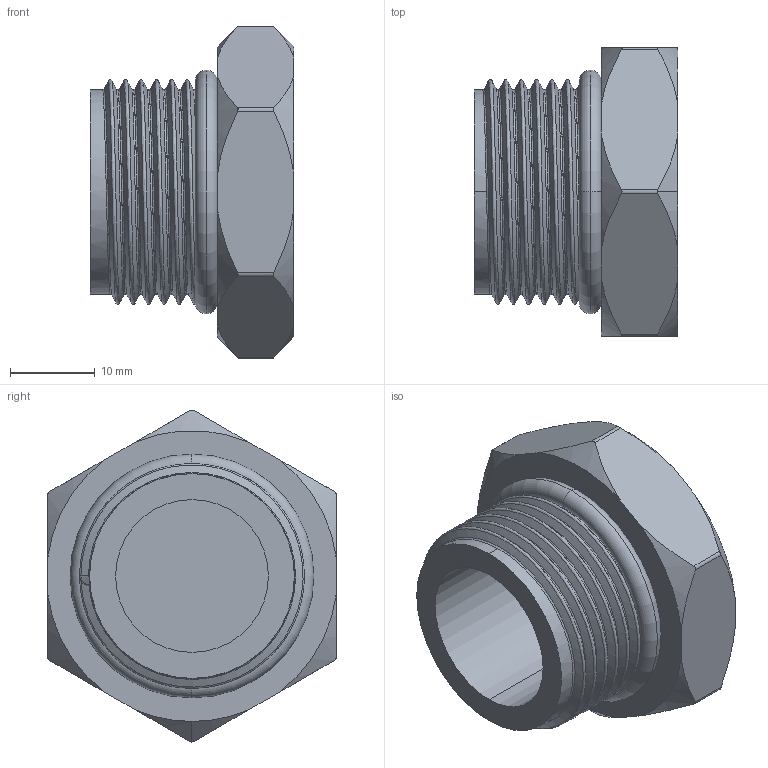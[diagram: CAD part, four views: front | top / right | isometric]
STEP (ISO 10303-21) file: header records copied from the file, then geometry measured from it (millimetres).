
FILE_DESCRIPTION (( 'STEP AP214' ), '1' );
FILE_NAME ('00200_0505.STEP', '2020-05-13T13:14:39', ( 'user' ), ( 'Hewlett-Packard Company' ), 'SwSTEP 2.0', 'SolidWorks 2011', '' );
FILE_SCHEMA (( 'AUTOMOTIVE_DESIGN' ));
Length unit declared in the file: millimetre
Products named in the file (1): 00200_0505
Bounding box: 24 x 34 x 39.11 mm (x, y, z)
Volume: 12729.9 mm3; surface area: 6335 mm2
Topology: 2 solids, 2 shells, 75 faces, 202 edges, 128 vertices
Faces by surface type: cylinder 23, cone 17, torus 13, bspline 12, plane 10
Entity records: 9504 total; most frequent: CARTESIAN_POINT 7852, ORIENTED_EDGE 398, DIRECTION 266, EDGE_CURVE 199, VERTEX_POINT 128, AXIS2_PLACEMENT_3D 111, EDGE_LOOP 77, ADVANCED_FACE 75
